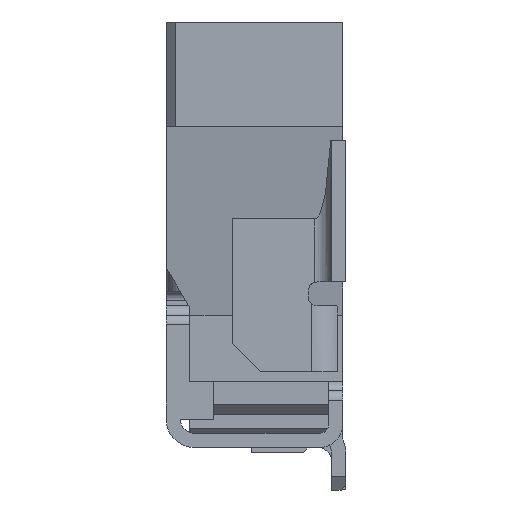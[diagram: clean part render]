
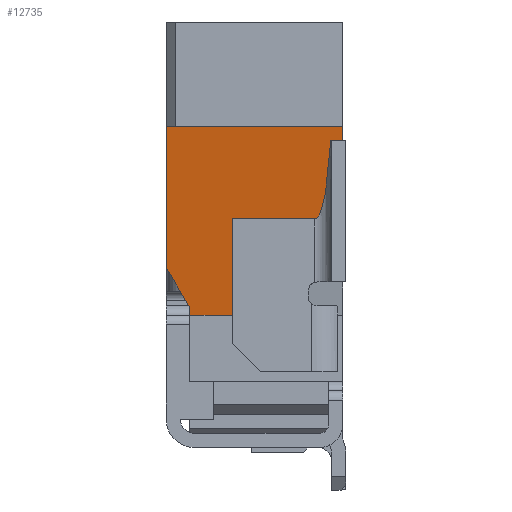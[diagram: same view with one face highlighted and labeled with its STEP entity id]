
A CAD part, left-side view. The second image highlights one B-rep face of the part: STEP entity #12735.
In plain terms, the highlighted planar face has unit normal (-0.989, 0, -0.146).
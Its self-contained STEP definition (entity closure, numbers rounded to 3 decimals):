
#10 = VERTEX_POINT ( 'NONE', #36353 ) ;
#74 = EDGE_CURVE ( 'NONE', #10, #45372, #36438, .T. ) ;
#12531 = ORIENTED_EDGE ( 'NONE', *, *, #44945, .T. ) ;
#12537 = ORIENTED_EDGE ( 'NONE', *, *, #12638, .F. ) ;
#12538 = ORIENTED_EDGE ( 'NONE', *, *, #12701, .T. ) ;
#12593 = ORIENTED_EDGE ( 'NONE', *, *, #44923, .F. ) ;
#12597 = VERTEX_POINT ( 'NONE', #27774 ) ;
#12606 = EDGE_CURVE ( 'NONE', #12597, #10, #27760, .T. ) ;
#12620 = EDGE_LOOP ( 'NONE', ( #12593, #12531, #12712, #12637, #12538, #12635, #12628, #12642, #12537, #12641 ) ) ;
#12628 = ORIENTED_EDGE ( 'NONE', *, *, #74, .F. ) ;
#12635 = ORIENTED_EDGE ( 'NONE', *, *, #20092, .T. ) ;
#12637 = ORIENTED_EDGE ( 'NONE', *, *, #36159, .F. ) ;
#12638 = EDGE_CURVE ( 'NONE', #12713, #12597, #27035, .T. ) ;
#12641 = ORIENTED_EDGE ( 'NONE', *, *, #12655, .F. ) ;
#12642 = ORIENTED_EDGE ( 'NONE', *, *, #12606, .F. ) ;
#12655 = EDGE_CURVE ( 'NONE', #44870, #12713, #27831, .T. ) ;
#12701 = EDGE_CURVE ( 'NONE', #36733, #16514, #27890, .T. ) ;
#12712 = ORIENTED_EDGE ( 'NONE', *, *, #40172, .F. ) ;
#12713 = VERTEX_POINT ( 'NONE', #27882 ) ;
#12735 = ADVANCED_FACE ( 'NONE', ( #27915 ), #27926, .T. ) ;
#16514 = VERTEX_POINT ( 'NONE', #28494 ) ;
#20092 = EDGE_CURVE ( 'NONE', #16514, #45372, #28654, .T. ) ;
#27035 = LINE ( 'NONE', #27268, #27292 ) ;
#27261 = DIRECTION ( 'NONE',  ( -0.146, 0., 0.989 ) ) ;
#27268 = CARTESIAN_POINT ( 'NONE',  ( -9.885, 1.65, 1.875 ) ) ;
#27292 = VECTOR ( 'NONE', #27261, 1000. ) ;
#27759 = CARTESIAN_POINT ( 'NONE',  ( -9.786, 2.396, 1.202 ) ) ;
#27760 = LINE ( 'NONE', #27759, #27809 ) ;
#27774 = CARTESIAN_POINT ( 'NONE',  ( -9.602, 1.65, -0.042 ) ) ;
#27808 = DIRECTION ( 'NONE',  ( -0.125, 0.51, 0.851 ) ) ;
#27809 = VECTOR ( 'NONE', #27808, 1000. ) ;
#27830 = VECTOR ( 'NONE', #27833, 1000. ) ;
#27831 = LINE ( 'NONE', #27840, #27830 ) ;
#27833 = DIRECTION ( 'NONE',  ( 0., 1., 0. ) ) ;
#27840 = CARTESIAN_POINT ( 'NONE',  ( -9.59, 1.25, -0.125 ) ) ;
#27882 = CARTESIAN_POINT ( 'NONE',  ( -9.59, 1.65, -0.125 ) ) ;
#27887 = DIRECTION ( 'NONE',  ( -0.146, 0., 0.989 ) ) ;
#27888 = VECTOR ( 'NONE', #27887, 1000. ) ;
#27889 = CARTESIAN_POINT ( 'NONE',  ( -9.885, 0.03, 1.875 ) ) ;
#27890 = LINE ( 'NONE', #27889, #27888 ) ;
#27908 = DIRECTION ( 'NONE',  ( -0.989, 0., -0.146 ) ) ;
#27909 = CARTESIAN_POINT ( 'NONE',  ( -9.885, 1.25, 1.875 ) ) ;
#27915 = FACE_OUTER_BOUND ( 'NONE', #12620, .T. ) ;
#27922 = AXIS2_PLACEMENT_3D ( 'NONE', #27909, #27908, #27969 ) ;
#27926 = PLANE ( 'NONE',  #27922 ) ;
#27969 = DIRECTION ( 'NONE',  ( -0.146, 0., 0.989 ) ) ;
#28494 = CARTESIAN_POINT ( 'NONE',  ( -9.885, 0.03, 1.875 ) ) ;
#28651 = DIRECTION ( 'NONE',  ( 0., 1., 0. ) ) ;
#28652 = VECTOR ( 'NONE', #28651, 1000. ) ;
#28653 = CARTESIAN_POINT ( 'NONE',  ( -9.885, 1.25, 1.875 ) ) ;
#28654 = LINE ( 'NONE', #28653, #28652 ) ;
#32987 = DIRECTION ( 'NONE',  ( 0., 1., 0. ) ) ;
#32988 = VECTOR ( 'NONE', #32987, 1000. ) ;
#32989 = CARTESIAN_POINT ( 'NONE',  ( -9.863, 0.775, 1.725 ) ) ;
#32994 = LINE ( 'NONE', #32989, #32988 ) ;
#33357 = CARTESIAN_POINT ( 'NONE',  ( -9.863, 0.03, 1.725 ) ) ;
#33410 = CARTESIAN_POINT ( 'NONE',  ( -9.863, 0.159, 1.725 ) ) ;
#33631 = CARTESIAN_POINT ( 'NONE',  ( -9.74, 0.33, 0.892 ) ) ;
#33632 = CARTESIAN_POINT ( 'NONE',  ( -9.74, 0.25, 0.892 ) ) ;
#33633 = CARTESIAN_POINT ( 'NONE',  ( -9.787, 0.185, 1.21 ) ) ;
#33634 = CARTESIAN_POINT ( 'NONE',  ( -9.863, 0.159, 1.725 ) ) ;
#33636 =( BOUNDED_CURVE ( )  B_SPLINE_CURVE ( 3, ( #33634, #33633, #33632, #33631 ),
 .UNSPECIFIED., .F., .T. ) 
 B_SPLINE_CURVE_WITH_KNOTS ( ( 4, 4 ),
 ( 5.035, 6.283 ),
 .UNSPECIFIED. ) 
 CURVE ( )  GEOMETRIC_REPRESENTATION_ITEM ( )  RATIONAL_B_SPLINE_CURVE ( ( 1., 0.874, 0.874, 1. ) ) 
 REPRESENTATION_ITEM ( '' )  );
#34120 = CARTESIAN_POINT ( 'NONE',  ( -9.74, 0.33, 0.892 ) ) ;
#34466 = CARTESIAN_POINT ( 'NONE',  ( -9.59, 1.2, -0.125 ) ) ;
#34529 = CARTESIAN_POINT ( 'NONE',  ( -9.74, 1.2, 0.892 ) ) ;
#34582 = DIRECTION ( 'NONE',  ( 0.146, 0., -0.989 ) ) ;
#34583 = VECTOR ( 'NONE', #34582, 1000. ) ;
#34584 = CARTESIAN_POINT ( 'NONE',  ( -9.329, 1.2, -1.896 ) ) ;
#34585 = LINE ( 'NONE', #34584, #34583 ) ;
#34606 = DIRECTION ( 'NONE',  ( 0., -1., 0. ) ) ;
#34607 = VECTOR ( 'NONE', #34606, 1000. ) ;
#34608 = CARTESIAN_POINT ( 'NONE',  ( -9.74, 0.59, 0.892 ) ) ;
#34611 = LINE ( 'NONE', #34608, #34607 ) ;
#35263 = CARTESIAN_POINT ( 'NONE',  ( -9.885, 1.9, 1.875 ) ) ;
#36159 = EDGE_CURVE ( 'NONE', #36733, #38041, #32994, .T. ) ;
#36353 = CARTESIAN_POINT ( 'NONE',  ( -9.664, 1.9, 0.375 ) ) ;
#36436 = DIRECTION ( 'NONE',  ( -0.146, 0., 0.989 ) ) ;
#36437 = VECTOR ( 'NONE', #36436, 1000. ) ;
#36438 = LINE ( 'NONE', #36452, #36437 ) ;
#36452 = CARTESIAN_POINT ( 'NONE',  ( -9.885, 1.9, 1.875 ) ) ;
#36733 = VERTEX_POINT ( 'NONE', #33357 ) ;
#38041 = VERTEX_POINT ( 'NONE', #33410 ) ;
#40172 = EDGE_CURVE ( 'NONE', #38041, #44152, #33636, .T. ) ;
#44152 = VERTEX_POINT ( 'NONE', #34120 ) ;
#44870 = VERTEX_POINT ( 'NONE', #34466 ) ;
#44917 = VERTEX_POINT ( 'NONE', #34529 ) ;
#44923 = EDGE_CURVE ( 'NONE', #44917, #44870, #34585, .T. ) ;
#44945 = EDGE_CURVE ( 'NONE', #44917, #44152, #34611, .T. ) ;
#45372 = VERTEX_POINT ( 'NONE', #35263 ) ;
